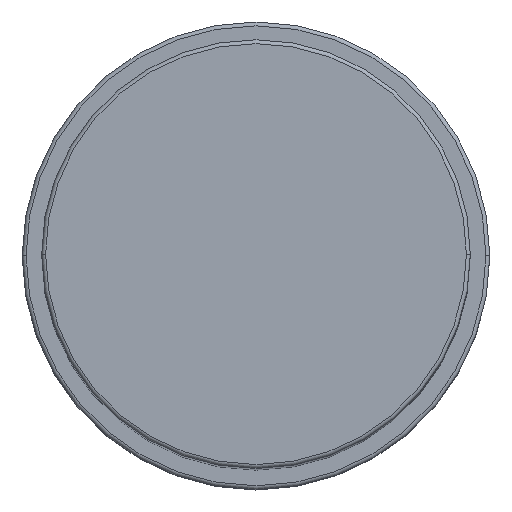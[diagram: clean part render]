
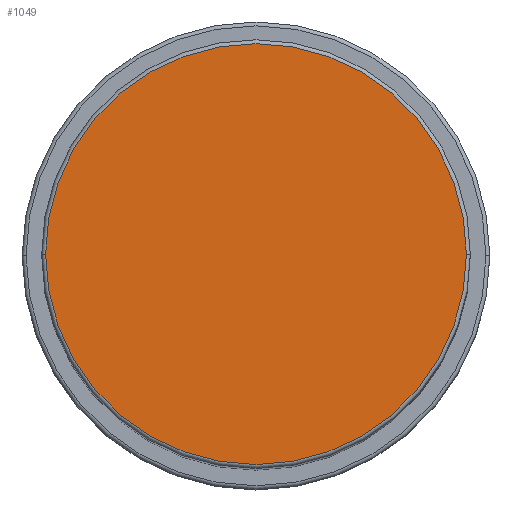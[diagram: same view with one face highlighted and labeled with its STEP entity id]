
A CAD part, top view. The second image highlights one B-rep face of the part: STEP entity #1049.
In plain terms, the highlighted planar face has unit normal (0, 0, 1).
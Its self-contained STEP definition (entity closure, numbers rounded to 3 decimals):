
#187 = FACE_OUTER_BOUND ( 'NONE', #4206, .T. ) ;
#688 = VERTEX_POINT ( 'NONE', #1010 ) ;
#1010 = CARTESIAN_POINT ( 'NONE',  ( 27., 0., 138. ) ) ;
#1049 = ADVANCED_FACE ( 'NONE', ( #187 ), #3555, .T. ) ;
#1090 = AXIS2_PLACEMENT_3D ( 'NONE', #1265, #2012, #3522 ) ;
#1186 = EDGE_CURVE ( 'NONE', #688, #2819, #2493, .T. ) ;
#1265 = CARTESIAN_POINT ( 'NONE',  ( 0., 0., 138. ) ) ;
#1426 = DIRECTION ( 'NONE',  ( 0., 0., 1. ) ) ;
#1462 = CARTESIAN_POINT ( 'NONE',  ( -27., 0., 138. ) ) ;
#1685 = CIRCLE ( 'NONE', #4320, 27. ) ;
#1847 = DIRECTION ( 'NONE',  ( 0., 0., 1. ) ) ;
#1903 = DIRECTION ( 'NONE',  ( 1., 0., 0. ) ) ;
#2012 = DIRECTION ( 'NONE',  ( 0., 0., 1. ) ) ;
#2461 = ORIENTED_EDGE ( 'NONE', *, *, #3742, .T. ) ;
#2493 = CIRCLE ( 'NONE', #4867, 27. ) ;
#2819 = VERTEX_POINT ( 'NONE', #1462 ) ;
#2922 = DIRECTION ( 'NONE',  ( 1., 0., 0. ) ) ;
#2992 = CARTESIAN_POINT ( 'NONE',  ( 0., 0., 138. ) ) ;
#3522 = DIRECTION ( 'NONE',  ( 1., 0., 0. ) ) ;
#3555 = PLANE ( 'NONE',  #1090 ) ;
#3652 = ORIENTED_EDGE ( 'NONE', *, *, #1186, .T. ) ;
#3742 = EDGE_CURVE ( 'NONE', #2819, #688, #1685, .T. ) ;
#4206 = EDGE_LOOP ( 'NONE', ( #3652, #2461 ) ) ;
#4320 = AXIS2_PLACEMENT_3D ( 'NONE', #2992, #1426, #2922 ) ;
#4867 = AXIS2_PLACEMENT_3D ( 'NONE', #4935, #1847, #1903 ) ;
#4935 = CARTESIAN_POINT ( 'NONE',  ( 0., 0., 138. ) ) ;
